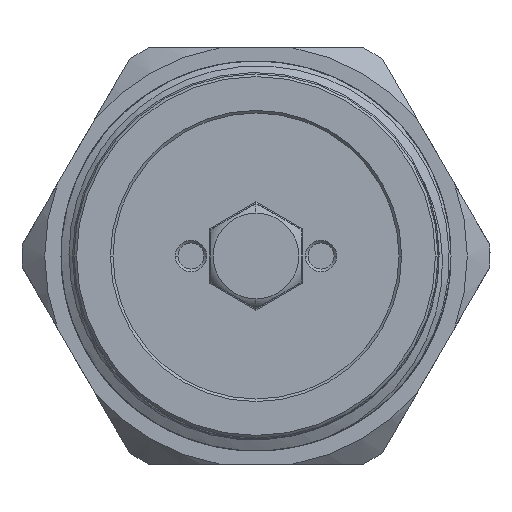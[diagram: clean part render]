
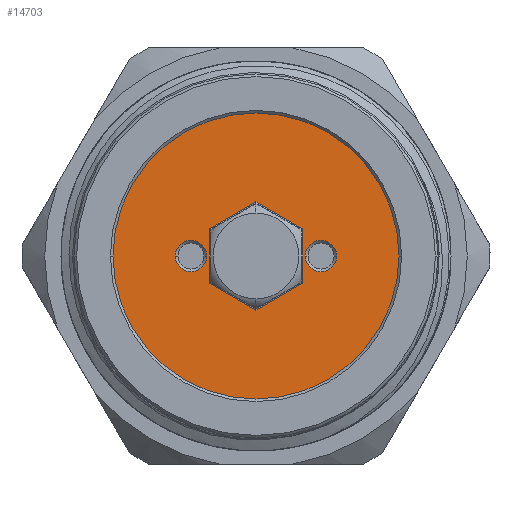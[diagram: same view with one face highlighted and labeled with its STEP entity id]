
A CAD part, front view. The second image highlights one B-rep face of the part: STEP entity #14703.
In plain terms, the highlighted planar face has unit normal (0, -1, 0).
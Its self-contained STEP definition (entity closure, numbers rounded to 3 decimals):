
#14136=CARTESIAN_POINT('',(0.,0.,0.));
#14137=DIRECTION('',(0.,-1.,0.));
#14138=DIRECTION('',(-1.,0.,0.));
#14139=AXIS2_PLACEMENT_3D('',#14136,#14137,#14138);
#14141=CARTESIAN_POINT('',(0.,0.,0.));
#14142=DIRECTION('',(0.,-1.,0.));
#14143=DIRECTION('',(1.,0.,0.));
#14144=AXIS2_PLACEMENT_3D('',#14141,#14142,#14143);
#14146=CARTESIAN_POINT('',(-5.,0.,0.));
#14147=DIRECTION('',(0.,1.,0.));
#14148=DIRECTION('',(1.,0.,0.));
#14149=AXIS2_PLACEMENT_3D('',#14146,#14147,#14148);
#14151=CARTESIAN_POINT('',(-5.,0.,0.));
#14152=DIRECTION('',(0.,1.,0.));
#14153=DIRECTION('',(-1.,0.,0.));
#14154=AXIS2_PLACEMENT_3D('',#14151,#14152,#14153);
#14156=CARTESIAN_POINT('',(5.,0.,0.));
#14157=DIRECTION('',(0.,1.,0.));
#14158=DIRECTION('',(1.,0.,0.));
#14159=AXIS2_PLACEMENT_3D('',#14156,#14157,#14158);
#14161=CARTESIAN_POINT('',(5.,0.,0.));
#14162=DIRECTION('',(0.,1.,0.));
#14163=DIRECTION('',(-1.,0.,0.));
#14164=AXIS2_PLACEMENT_3D('',#14161,#14162,#14163);
#14166=DIRECTION('',(-0.866,0.,0.5));
#14167=VECTOR('',#14166,4.157);
#14168=CARTESIAN_POINT('',(3.6,0.,2.078));
#14169=LINE('',#14168,#14167);
#14170=DIRECTION('',(-0.866,0.,-0.5));
#14171=VECTOR('',#14170,4.157);
#14172=CARTESIAN_POINT('',(0.,0.,4.157));
#14173=LINE('',#14172,#14171);
#14174=DIRECTION('',(0.,0.,-1.));
#14175=VECTOR('',#14174,4.157);
#14176=CARTESIAN_POINT('',(-3.6,0.,2.078));
#14177=LINE('',#14176,#14175);
#14178=DIRECTION('',(0.866,0.,-0.5));
#14179=VECTOR('',#14178,4.157);
#14180=CARTESIAN_POINT('',(-3.6,0.,-2.078));
#14181=LINE('',#14180,#14179);
#14182=DIRECTION('',(0.866,0.,0.5));
#14183=VECTOR('',#14182,4.157);
#14184=CARTESIAN_POINT('',(0.,0.,-4.157));
#14185=LINE('',#14184,#14183);
#14186=DIRECTION('',(0.,0.,1.));
#14187=VECTOR('',#14186,4.157);
#14188=CARTESIAN_POINT('',(3.6,0.,-2.078));
#14189=LINE('',#14188,#14187);
#14592=CARTESIAN_POINT('',(-11.3,0.,0.));
#14593=CARTESIAN_POINT('',(11.3,0.,0.));
#14594=VERTEX_POINT('',#14592);
#14595=VERTEX_POINT('',#14593);
#14600=CARTESIAN_POINT('',(-3.8,0.,0.));
#14601=CARTESIAN_POINT('',(-6.2,0.,0.));
#14602=VERTEX_POINT('',#14600);
#14603=VERTEX_POINT('',#14601);
#14616=CARTESIAN_POINT('',(6.2,0.,0.));
#14617=CARTESIAN_POINT('',(3.8,0.,0.));
#14618=VERTEX_POINT('',#14616);
#14619=VERTEX_POINT('',#14617);
#14642=CARTESIAN_POINT('',(3.6,0.,2.078));
#14643=CARTESIAN_POINT('',(0.,0.,4.157));
#14644=VERTEX_POINT('',#14642);
#14645=VERTEX_POINT('',#14643);
#14650=CARTESIAN_POINT('',(3.6,0.,-2.078));
#14651=VERTEX_POINT('',#14650);
#14654=CARTESIAN_POINT('',(0.,0.,-4.157));
#14655=VERTEX_POINT('',#14654);
#14658=CARTESIAN_POINT('',(-3.6,0.,-2.078));
#14659=VERTEX_POINT('',#14658);
#14662=CARTESIAN_POINT('',(-3.6,0.,2.078));
#14663=VERTEX_POINT('',#14662);
#14666=CARTESIAN_POINT('',(0.,0.,0.));
#14667=DIRECTION('',(0.,1.,0.));
#14668=DIRECTION('',(1.,0.,0.));
#14669=AXIS2_PLACEMENT_3D('',#14666,#14667,#14668);
#14670=PLANE('',#14669);
#14672=ORIENTED_EDGE('',*,*,#14671,.F.);
#14674=ORIENTED_EDGE('',*,*,#14673,.F.);
#14675=EDGE_LOOP('',(#14672,#14674));
#14676=FACE_OUTER_BOUND('',#14675,.F.);
#14678=ORIENTED_EDGE('',*,*,#14677,.F.);
#14680=ORIENTED_EDGE('',*,*,#14679,.F.);
#14681=EDGE_LOOP('',(#14678,#14680));
#14682=FACE_BOUND('',#14681,.F.);
#14684=ORIENTED_EDGE('',*,*,#14683,.F.);
#14686=ORIENTED_EDGE('',*,*,#14685,.F.);
#14687=EDGE_LOOP('',(#14684,#14686));
#14688=FACE_BOUND('',#14687,.F.);
#14690=ORIENTED_EDGE('',*,*,#14689,.T.);
#14692=ORIENTED_EDGE('',*,*,#14691,.T.);
#14694=ORIENTED_EDGE('',*,*,#14693,.T.);
#14696=ORIENTED_EDGE('',*,*,#14695,.T.);
#14698=ORIENTED_EDGE('',*,*,#14697,.T.);
#14700=ORIENTED_EDGE('',*,*,#14699,.T.);
#14701=EDGE_LOOP('',(#14690,#14692,#14694,#14696,#14698,#14700));
#14702=FACE_BOUND('',#14701,.F.);
#14703=ADVANCED_FACE('',(#14676,#14682,#14688,#14702),#14670,.F.);
#14140=CIRCLE('',#14139,11.3);
#14145=CIRCLE('',#14144,11.3);
#14150=CIRCLE('',#14149,1.2);
#14155=CIRCLE('',#14154,1.2);
#14160=CIRCLE('',#14159,1.2);
#14165=CIRCLE('',#14164,1.2);
#14671=EDGE_CURVE('',#14594,#14595,#14140,.T.);
#14673=EDGE_CURVE('',#14595,#14594,#14145,.T.);
#14677=EDGE_CURVE('',#14602,#14603,#14150,.T.);
#14679=EDGE_CURVE('',#14603,#14602,#14155,.T.);
#14683=EDGE_CURVE('',#14618,#14619,#14160,.T.);
#14685=EDGE_CURVE('',#14619,#14618,#14165,.T.);
#14689=EDGE_CURVE('',#14644,#14645,#14169,.T.);
#14691=EDGE_CURVE('',#14645,#14663,#14173,.T.);
#14693=EDGE_CURVE('',#14663,#14659,#14177,.T.);
#14695=EDGE_CURVE('',#14659,#14655,#14181,.T.);
#14697=EDGE_CURVE('',#14655,#14651,#14185,.T.);
#14699=EDGE_CURVE('',#14651,#14644,#14189,.T.);
